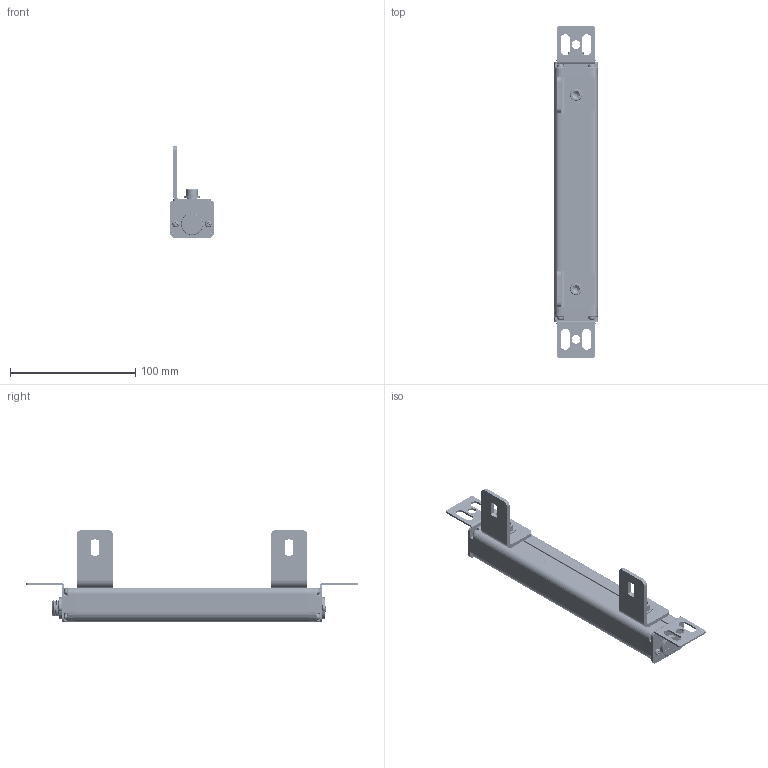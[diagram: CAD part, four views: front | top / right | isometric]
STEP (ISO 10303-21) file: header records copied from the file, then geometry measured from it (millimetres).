
FILE_DESCRIPTION((''),'2;1');
FILE_NAME('ELG-0440_ASM','2021-08-07T09:11:55',('18720616900'),(''),'CREO PARAMETRIC BY PTC INC, 2019010','CREO PARAMETRIC BY PTC INC, 2019010','');
FILE_SCHEMA(('CONFIG_CONTROL_DESIGN'));
Products named in the file (18): ELG--00; ELG--000; ELG000; M3--0001; 3000; 3--0001; ELG_30001_ASM; ST-3-12; L20001; M3-6; L10001; M6-1--00; M6-1-00; M6-8--0001; 00; L1--0001_ASM; ELG-0440_ASM
Assembly tree (34 placements, depth 3):
  ELG-0440_ASM
    ELG--00
    ELG--000
    ELG000
    ELG000
    M3--0001  x4
    ELG_30001_ASM
      3000
      3--0001  x3
    ST-3-12  x8
    L20001  x2
    M3-6  x4
    L1--0001_ASM  x2
      L10001
      M6-1--00
      M6-1-00
      M6-8--0001
      00
Bounding box: 35 x 265 x 73.4 mm (x, y, z)
Volume: 192427.9 mm3; surface area: 68702.6 mm2
Topology: 36 solids, 36 shells, 3404 faces, 9468 edges, 6167 vertices
Faces by surface type: cylinder 1928, plane 616, bspline 398, cone 353, torus 99, sphere 10
Entity records: 68753 total; most frequent: CARTESIAN_POINT 35026, ORIENTED_EDGE 7326, DIRECTION 6679, EDGE_CURVE 3663, AXIS2_PLACEMENT_3D 2530, VERTEX_POINT 2387, VECTOR 1619, LINE 1619
